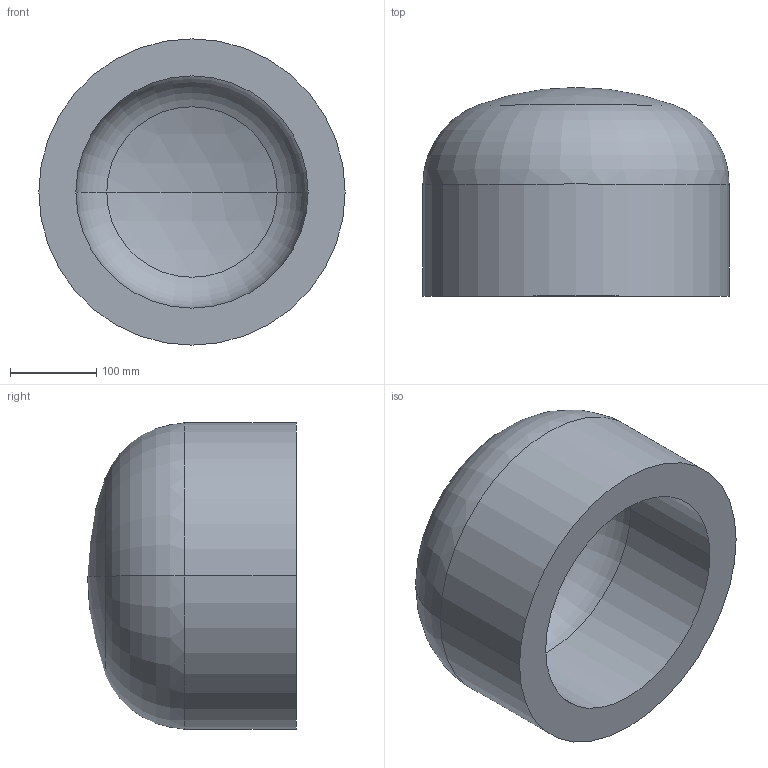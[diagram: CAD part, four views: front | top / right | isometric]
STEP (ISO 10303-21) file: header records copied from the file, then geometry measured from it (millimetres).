
FILE_DESCRIPTION (( 'STEP AP203' ), '1' );
FILE_NAME ('DIN 28013 Korbbogenform_-_Boden DIN 28013 - 355,6 x 130 - I - s=43.step', '2016-07-01T07:48:17', ( '' ), ( '' ), 'SwSTEP 2.0', 'SolidWorks 2013', '' );
FILE_SCHEMA (( 'CONFIG_CONTROL_DESIGN' ));
Length unit declared in the file: millimetre
Products named in the file (1): DIN 28013 Korbbogenform_-_Boden DIN 28013 - 355,6 x 130 - I - s=43
Bounding box: 355.6 x 242.35 x 355.6 mm (x, y, z)
Volume: 10597649.1 mm3; surface area: 539015.1 mm2
Topology: 1 solids, 1 shells, 13 faces, 24 edges, 14 vertices
Faces by surface type: torus 4, cylinder 4, sphere 4, plane 1
Entity records: 407 total; most frequent: DIRECTION 72, CARTESIAN_POINT 52, ORIENTED_EDGE 48, AXIS2_PLACEMENT_3D 34, EDGE_CURVE 24, CIRCLE 20, VERTEX_POINT 14, EDGE_LOOP 14
